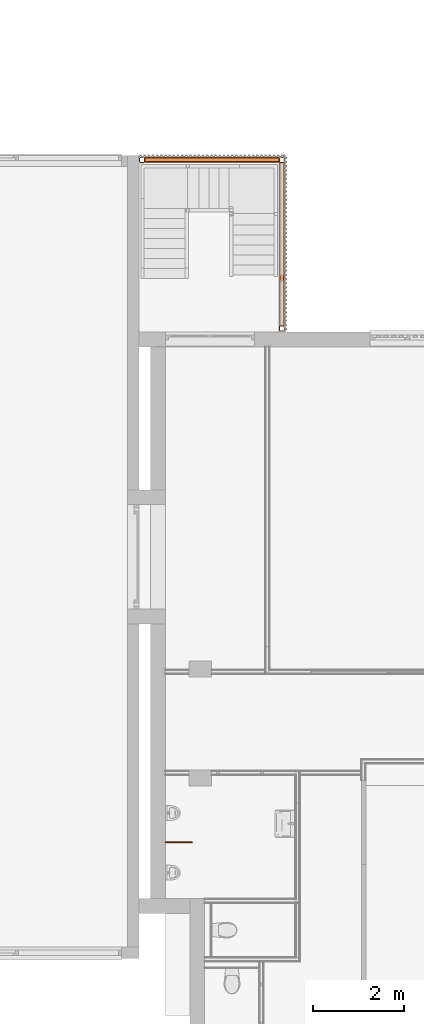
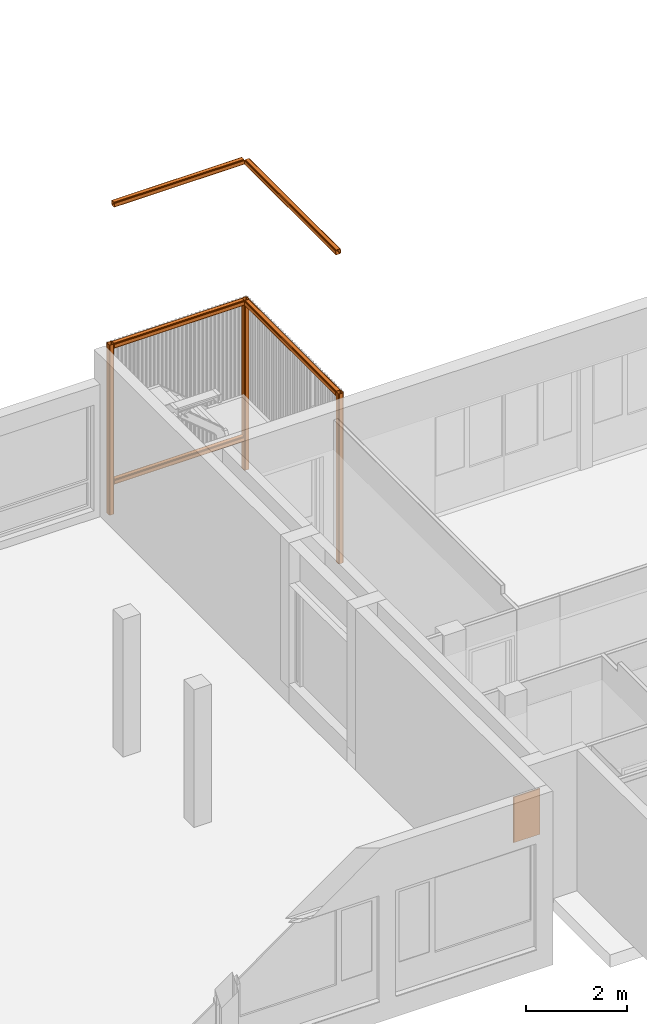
# One storey, part 102 of 117: 9 proxies.
"""IFC2X3 building model written with IfcOpenShell, lengths in millimetres."""

from ifc_helpers import new_model, entity, si_unit, converted_unit, derived_unit, money_unit, direction, frame, origin_with_axes, place, context, subcontext, project, spatial, faceted_brep, source, transform, mapped, material, type_object, type_shapes, element, save


model = new_model("IFC2X3")

# Units and contexts
model_context = context("Model", 3, precision=0.01, world=origin_with_axes(), true_north=direction((0.0, 1.0)))
body_context = subcontext(model_context, "Body", "Model", "MODEL_VIEW")
ifc_project = project(units=[si_unit("LENGTHUNIT", "METRE", prefix="MILLI"), si_unit("AREAUNIT", "SQUARE_METRE"), si_unit("VOLUMEUNIT", "CUBIC_METRE"), converted_unit("PLANEANGLEUNIT", "DEGREE", entity("IfcPlaneAngleMeasure", 0.0174532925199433), si_unit("PLANEANGLEUNIT", "RADIAN"), dimensions=[0, 0, 0, 0, 0, 0, 0]), money_unit("EUR"), converted_unit("TIMEUNIT", "Year", entity("IfcTimeMeasure", 31557600.0), si_unit("TIMEUNIT", "SECOND"), dimensions=[0, 0, 1, 0, 0, 0, 0]), si_unit("MASSUNIT", "GRAM", prefix="KILO"), si_unit("THERMODYNAMICTEMPERATUREUNIT", "DEGREE_CELSIUS"), si_unit("LUMINOUSINTENSITYUNIT", "LUMEN"), si_unit("ENERGYUNIT", "JOULE", prefix="MEGA"), derived_unit("THERMALCONDUCTANCEUNIT", [(si_unit("POWERUNIT", "WATT"), 1), (si_unit("LENGTHUNIT", "METRE"), -1), (si_unit("THERMODYNAMICTEMPERATUREUNIT", "KELVIN"), -1)]), derived_unit("SPECIFICHEATCAPACITYUNIT", [(si_unit("ENERGYUNIT", "JOULE"), 1), (si_unit("MASSUNIT", "GRAM", prefix="KILO"), -1), (si_unit("THERMODYNAMICTEMPERATUREUNIT", "KELVIN"), -1)]), derived_unit("MASSDENSITYUNIT", [(si_unit("MASSUNIT", "GRAM", prefix="KILO"), 1), (si_unit("VOLUMEUNIT", "CUBIC_METRE"), -1)])], contexts=[model_context])

# Site, building, storey
site_placement = place(None, origin_with_axes())
site = spatial("IfcSite", under=ifc_project, at=site_placement, Name="Site", CompositionType="ELEMENT")
building_placement = place(site_placement, origin_with_axes())
building = spatial("IfcBuilding", under=site, at=building_placement, Name="Naam gebouw", CompositionType="ELEMENT")
storey_placement = place(building_placement, frame((0.0, 0.0, 4150.0), z_axis=(0.0, 0.0, 1.0), x_axis=(1.0, 0.0, 0.0)))
storey = spatial("IfcBuildingStorey", under=building, at=storey_placement, Name="1e verdieping N", CompositionType="ELEMENT", Elevation=4150.0)

# Proxies
building_element_proxy_type_1 = type_object("IfcBuildingElementProxyType", Name="Scheidingwanden 27", PredefinedType="NOTDEFINED")
shared_shape_1 = source(origin_with_axes(), body_context, "Body", "Brep", [
    faceted_brep([(0.0, 0.0, 400.0), (600.0, 0.0, 400.0), (600.0, 0.0, 1500.0), (0.0, 0.0, 1500.0), (0.0, 25.0, 400.0), (600.0, 25.0, 400.0), (600.0, 25.0, 1500.0), (0.0, 25.0, 1500.0)], [[[0, 1, 2, 3]], [[0, 4, 5, 1]], [[1, 5, 6, 2]], [[3, 2, 6, 7]], [[4, 0, 3, 7]], [[5, 4, 7, 6]]]),
])
type_shapes(building_element_proxy_type_1, [shared_shape_1])
proxy_placement = place(storey_placement, frame((-770.0761052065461, 9064.214553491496, 0.0), z_axis=(0.0, 0.0, 1.0), x_axis=(1.0, 0.0, 0.0)))
element("IfcBuildingElementProxy", 1, at=proxy_placement, inside=storey, type_object=building_element_proxy_type_1, Name="_Sanitair-x", context=body_context, shape_type="MappedRepresentation", body=[
    mapped(shared_shape_1, transform((0.0, 0.0, 0.0))),
])
ifc_material = material(Name="Metaal - Staal AFW")
building_element_proxy_type_2 = type_object("IfcBuildingElementProxyType", Name="Buis vk koudgev balk 26", PredefinedType="NOTDEFINED")
shared_shape_2 = source(origin_with_axes(), body_context, "Body", "Brep", [
    faceted_brep([(0.0, -39.99999999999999, 0.0), (-3600.000000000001, -40.00000000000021, 0.0), (-3600.000000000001, 39.99999999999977, 0.0), (0.0, 39.99999999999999, 0.0), (0.0, -54.14213562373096, 5.857864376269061), (-3600.000000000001, -54.14213562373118, 5.857864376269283), (-3600.000000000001, -60.00000000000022, 20.00000000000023), (-3600.000000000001, -60.00000000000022, 100.0000000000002), (-3600.000000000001, -54.14213562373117, 114.1421356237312), (-3600.000000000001, -40.00000000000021, 120.0000000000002), (-3600.000000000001, 39.99999999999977, 120.0000000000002), (-3600.000000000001, 54.14213562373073, 114.1421356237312), (-3600.000000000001, 59.99999999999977, 100.0000000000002), (-3600.000000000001, 59.99999999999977, 20.00000000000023), (-3600.000000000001, 54.14213562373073, 5.85786437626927), (-3600.000000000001, -40.00000000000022, 10.00000000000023), (-3600.000000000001, 39.99999999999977, 10.00000000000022), (-3600.000000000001, 47.07106781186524, 12.92893218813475), (-3600.000000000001, 49.99999999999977, 20.00000000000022), (-3600.000000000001, 49.99999999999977, 100.0000000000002), (-3600.000000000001, 47.07106781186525, 107.0710678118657), (-3600.000000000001, 39.99999999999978, 110.0000000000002), (-3600.000000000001, -40.00000000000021, 110.0000000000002), (-3600.000000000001, -47.07106781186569, 107.0710678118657), (-3600.000000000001, -50.00000000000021, 100.0000000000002), (-3600.000000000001, -50.00000000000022, 20.00000000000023), (-3600.000000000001, -47.0710678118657, 12.92893218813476), (0.0, 54.14213562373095, 5.857864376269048), (0.0, 60.0, 20.0), (0.0, 60.0, 99.99999999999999), (0.0, 54.14213562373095, 114.142135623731), (0.0, 39.99999999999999, 120.0), (0.0, -39.99999999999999, 120.0), (0.0, -54.14213562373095, 114.142135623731), (0.0, -60.0, 99.99999999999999), (0.0, -60.0, 20.0), (0.0, -40.0, 10.00000000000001), (0.0, -47.07106781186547, 12.92893218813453), (0.0, -49.99999999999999, 20.0), (0.0, -49.99999999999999, 100.0), (0.0, -47.07106781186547, 107.0710678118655), (0.0, -39.99999999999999, 110.0), (0.0, 40.0, 110.0), (0.0, 47.07106781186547, 107.0710678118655), (0.0, 49.99999999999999, 99.99999999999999), (0.0, 49.99999999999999, 20.0), (0.0, 47.07106781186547, 12.92893218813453), (0.0, 39.99999999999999, 10.0)], [[[0, 1, 2, 3]], [[4, 5, 1, 0]], [[1, 5, 6, 7, 8, 9, 10, 11, 12, 13, 14, 2], [15, 16, 17, 18, 19, 20, 21, 22, 23, 24, 25, 26]], [[3, 2, 14, 27]], [[0, 3, 27, 28, 29, 30, 31, 32, 33, 34, 35, 4], [36, 37, 38, 39, 40, 41, 42, 43, 44, 45, 46, 47]], [[35, 6, 5, 4]], [[34, 7, 6, 35]], [[33, 8, 7, 34]], [[32, 9, 8, 33]], [[31, 10, 9, 32]], [[30, 11, 10, 31]], [[29, 12, 11, 30]], [[28, 13, 12, 29]], [[27, 14, 13, 28]], [[47, 16, 15, 36]], [[46, 17, 16, 47]], [[45, 18, 17, 46]], [[44, 19, 18, 45]], [[43, 20, 19, 44]], [[42, 21, 20, 43]], [[41, 22, 21, 42]], [[40, 23, 22, 41]], [[39, 24, 23, 40]], [[38, 25, 24, 39]], [[37, 26, 25, 38]], [[36, 15, 26, 37]]]),
])
for number, where, z_axis, x_axis, name in (
    (2, (1799.999999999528, 24055.82979156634, 3380.0), (0.0, 0.0, 1.0), (0.0, 1.0, 0.0), "_Boom-x"),
    (3, (1799.999999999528, 24055.82979156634, 6779.999999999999), (0.0, 0.0, 1.0), (0.0, 1.0, 0.0), "_Boom-x"),
):
    element("IfcBuildingElementProxy", number, at=place(storey_placement, frame(where, z_axis=z_axis, x_axis=x_axis)), inside=storey, type_object=building_element_proxy_type_2, material=ifc_material, Name=name, context=body_context, shape_type="MappedRepresentation", body=[
        mapped(shared_shape_2, transform((0.0, 0.0, 0.0))),
    ])
building_element_proxy_type_3 = type_object("IfcBuildingElementProxyType", Name="Buis vk koudgev kolom 26", PredefinedType="NOTDEFINED")
shared_shape_3 = source(origin_with_axes(), body_context, "Body", "Brep", [
    faceted_brep([(39.99999999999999, -60.0, 0.0), (39.99999999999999, -60.0, 4099.999999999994), (-39.99999999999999, -60.0, 4099.999999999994), (-39.99999999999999, -60.0, 0.0), (54.14213562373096, -54.14213562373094, 0.0), (54.14213562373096, -54.14213562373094, 4099.999999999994), (60.0, -39.99999999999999, 4099.999999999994), (60.0, 39.99999999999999, 4099.999999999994), (54.14213562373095, 54.14213562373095, 4099.999999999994), (39.99999999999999, 60.0, 4099.999999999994), (-39.99999999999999, 60.0, 4099.999999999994), (-54.14213562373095, 54.14213562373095, 4099.999999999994), (-60.0, 39.99999999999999, 4099.999999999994), (-60.0, -39.99999999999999, 4099.999999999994), (-54.14213562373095, -54.14213562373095, 4099.999999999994), (40.0, -49.99999999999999, 4099.999999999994), (-39.99999999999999, -49.99999999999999, 4099.999999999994), (-47.07106781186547, -47.07106781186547, 4099.999999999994), (-49.99999999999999, -40.0, 4099.999999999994), (-49.99999999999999, 39.99999999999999, 4099.999999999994), (-47.07106781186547, 47.07106781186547, 4099.999999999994), (-40.0, 49.99999999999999, 4099.999999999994), (39.99999999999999, 49.99999999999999, 4099.999999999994), (47.07106781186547, 47.07106781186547, 4099.999999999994), (49.99999999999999, 40.0, 4099.999999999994), (49.99999999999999, -39.99999999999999, 4099.999999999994), (47.07106781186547, -47.07106781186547, 4099.999999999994), (-54.14213562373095, -54.14213562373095, 0.0), (-60.0, -39.99999999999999, 0.0), (-60.0, 39.99999999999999, 0.0), (-54.14213562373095, 54.14213562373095, 0.0), (-39.99999999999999, 60.0, 0.0), (39.99999999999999, 60.0, 0.0), (54.14213562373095, 54.14213562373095, 0.0), (60.0, 39.99999999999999, 0.0), (60.0, -39.99999999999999, 0.0), (40.0, -49.99999999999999, 0.0), (47.07106781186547, -47.07106781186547, 0.0), (49.99999999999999, -39.99999999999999, 0.0), (49.99999999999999, 40.0, 0.0), (47.07106781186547, 47.07106781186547, 0.0), (39.99999999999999, 49.99999999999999, 0.0), (-40.0, 49.99999999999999, 0.0), (-47.07106781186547, 47.07106781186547, 0.0), (-49.99999999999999, 39.99999999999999, 0.0), (-49.99999999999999, -40.0, 0.0), (-47.07106781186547, -47.07106781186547, 0.0), (-39.99999999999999, -49.99999999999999, 0.0)], [[[0, 1, 2, 3]], [[4, 5, 1, 0]], [[1, 5, 6, 7, 8, 9, 10, 11, 12, 13, 14, 2], [15, 16, 17, 18, 19, 20, 21, 22, 23, 24, 25, 26]], [[3, 2, 14, 27]], [[0, 3, 27, 28, 29, 30, 31, 32, 33, 34, 35, 4], [36, 37, 38, 39, 40, 41, 42, 43, 44, 45, 46, 47]], [[35, 6, 5, 4]], [[34, 7, 6, 35]], [[33, 8, 7, 34]], [[32, 9, 8, 33]], [[31, 10, 9, 32]], [[30, 11, 10, 31]], [[29, 12, 11, 30]], [[28, 13, 12, 29]], [[27, 14, 13, 28]], [[47, 16, 15, 36]], [[46, 17, 16, 47]], [[45, 18, 17, 46]], [[44, 19, 18, 45]], [[43, 20, 19, 44]], [[42, 21, 20, 43]], [[41, 22, 21, 42]], [[40, 23, 22, 41]], [[39, 24, 23, 40]], [[38, 25, 24, 39]], [[37, 26, 25, 38]], [[36, 15, 26, 37]]]),
])
type_shapes(building_element_proxy_type_3, [shared_shape_3])
for number, where, z_axis, x_axis, name in (
    (4, (-1280.000000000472, 24115.82979156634, -600.0000000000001), (0.0, 0.0, 1.0), (-1.0, 0.0, 0.0), "_Boom-x"),
    (5, (1799.999999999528, 24115.82979156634, -600.0000000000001), (0.0, 0.0, 1.0), (-1.0, 0.0, 0.0), "_Boom-x"),
    (6, (1799.999999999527, 20395.82979156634, -600.0000000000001), (0.0, 0.0, 1.0), (-1.0, 0.0, 0.0), "_Boom-x"),
):
    element("IfcBuildingElementProxy", number, at=place(storey_placement, frame(where, z_axis=z_axis, x_axis=x_axis)), inside=storey, type_object=building_element_proxy_type_3, material=ifc_material, Name=name, context=body_context, shape_type="MappedRepresentation", body=[
        mapped(shared_shape_3, transform((0.0, 0.0, 0.0))),
    ])
shared_shape_4 = source(origin_with_axes(), body_context, "Body", "Brep", [
    faceted_brep([(0.0, -39.99999999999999, 0.0), (-2960.0, -40.00000000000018, 0.0), (-2960.0, 39.99999999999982, 0.0), (0.0, 39.99999999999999, 0.0), (0.0, -54.14213562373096, 5.857864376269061), (-2960.0, -54.14213562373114, 5.857864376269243), (-2960.0, -60.00000000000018, 20.00000000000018), (-2960.0, -60.00000000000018, 100.0000000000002), (-2960.0, -54.14213562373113, 114.1421356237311), (-2960.0, -40.00000000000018, 120.0000000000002), (-2960.0, 39.99999999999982, 120.0000000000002), (-2960.0, 54.14213562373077, 114.1421356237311), (-2960.0, 59.99999999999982, 100.0000000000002), (-2960.0, 59.99999999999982, 20.00000000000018), (-2960.0, 54.14213562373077, 5.857864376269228), (-2960.0, -40.00000000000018, 10.00000000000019), (-2960.0, 39.99999999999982, 10.00000000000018), (-2960.0, 47.07106781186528, 12.92893218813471), (-2960.0, 49.99999999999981, 20.00000000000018), (-2960.0, 49.99999999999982, 100.0000000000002), (-2960.0, 47.07106781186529, 107.0710678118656), (-2960.0, 39.99999999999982, 110.0000000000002), (-2960.0, -40.00000000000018, 110.0000000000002), (-2960.0, -47.07106781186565, 107.0710678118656), (-2960.0, -50.00000000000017, 100.0000000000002), (-2960.0, -50.00000000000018, 20.00000000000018), (-2960.0, -47.07106781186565, 12.92893218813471), (0.0, 54.14213562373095, 5.857864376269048), (0.0, 60.0, 20.0), (0.0, 60.0, 99.99999999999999), (0.0, 54.14213562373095, 114.142135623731), (0.0, 39.99999999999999, 120.0), (0.0, -39.99999999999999, 120.0), (0.0, -54.14213562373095, 114.142135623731), (0.0, -60.0, 99.99999999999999), (0.0, -60.0, 20.0), (0.0, -40.0, 10.00000000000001), (0.0, -47.07106781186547, 12.92893218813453), (0.0, -49.99999999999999, 20.0), (0.0, -49.99999999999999, 100.0), (0.0, -47.07106781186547, 107.0710678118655), (0.0, -39.99999999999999, 110.0), (0.0, 40.0, 110.0), (0.0, 47.07106781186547, 107.0710678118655), (0.0, 49.99999999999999, 99.99999999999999), (0.0, 49.99999999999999, 20.0), (0.0, 47.07106781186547, 12.92893218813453), (0.0, 39.99999999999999, 10.0)], [[[0, 1, 2, 3]], [[4, 5, 1, 0]], [[1, 5, 6, 7, 8, 9, 10, 11, 12, 13, 14, 2], [15, 16, 17, 18, 19, 20, 21, 22, 23, 24, 25, 26]], [[3, 2, 14, 27]], [[0, 3, 27, 28, 29, 30, 31, 32, 33, 34, 35, 4], [36, 37, 38, 39, 40, 41, 42, 43, 44, 45, 46, 47]], [[35, 6, 5, 4]], [[34, 7, 6, 35]], [[33, 8, 7, 34]], [[32, 9, 8, 33]], [[31, 10, 9, 32]], [[30, 11, 10, 31]], [[29, 12, 11, 30]], [[28, 13, 12, 29]], [[27, 14, 13, 28]], [[47, 16, 15, 36]], [[46, 17, 16, 47]], [[45, 18, 17, 46]], [[44, 19, 18, 45]], [[43, 20, 19, 44]], [[42, 21, 20, 43]], [[41, 22, 21, 42]], [[40, 23, 22, 41]], [[39, 24, 23, 40]], [[38, 25, 24, 39]], [[37, 26, 25, 38]], [[36, 15, 26, 37]]]),
])
type_shapes(building_element_proxy_type_2, [shared_shape_2, shared_shape_4])
for number, where, z_axis, x_axis, name in (
    (7, (-1220.000000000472, 24115.82979156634, 3380.0), (0.0, 0.0, 1.0), (-1.0, 0.0, 0.0), "_Boom-x"),
    (8, (-1220.000000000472, 24115.82979156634, 6779.999999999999), (0.0, 0.0, 1.0), (-1.0, 0.0, 0.0), "_Boom-x"),
    (9, (-1220.000000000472, 24115.82979156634, 100.0000000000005), (0.0, 0.0, 1.0), (-1.0, 0.0, 0.0), "_Boom-x"),
):
    element("IfcBuildingElementProxy", number, at=place(storey_placement, frame(where, z_axis=z_axis, x_axis=x_axis)), inside=storey, type_object=building_element_proxy_type_2, material=ifc_material, Name=name, context=body_context, shape_type="MappedRepresentation", body=[
        mapped(shared_shape_4, transform((0.0, 0.0, 0.0))),
    ])

save(model, "model.ifc")
